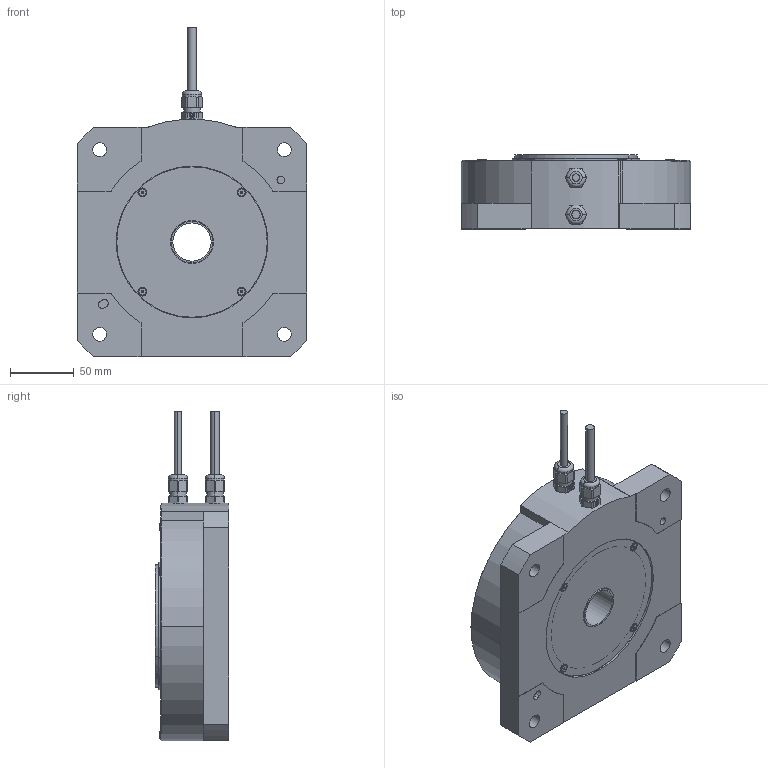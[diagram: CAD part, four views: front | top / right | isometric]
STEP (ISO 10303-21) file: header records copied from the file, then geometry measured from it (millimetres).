
FILE_DESCRIPTION (( 'STEP AP214' ), '1' );
FILE_NAME ('BZA01860.step', '2024-03-27T06:59:37', ( '' ), ( '' ), 'SwSTEP 2.0', 'SolidWorks 2023', '' );
FILE_SCHEMA (( 'AUTOMOTIVE_DESIGN' ));
Length unit declared in the file: millimetre
Products named in the file (1): BZA01860
Bounding box: 180 x 58 x 258.5 mm (x, y, z)
Volume: 626812.9 mm3; surface area: 203541.4 mm2
Topology: 17 solids, 17 shells, 800 faces, 2041 edges, 1279 vertices
Faces by surface type: cylinder 456, plane 148, cone 131, torus 37, sphere 22, bspline 6
Entity records: 25837 total; most frequent: CARTESIAN_POINT 6293, DIRECTION 4212, ORIENTED_EDGE 3950, EDGE_CURVE 1975, AXIS2_PLACEMENT_3D 1715, VERTEX_POINT 1279, CIRCLE 920, EDGE_LOOP 912
